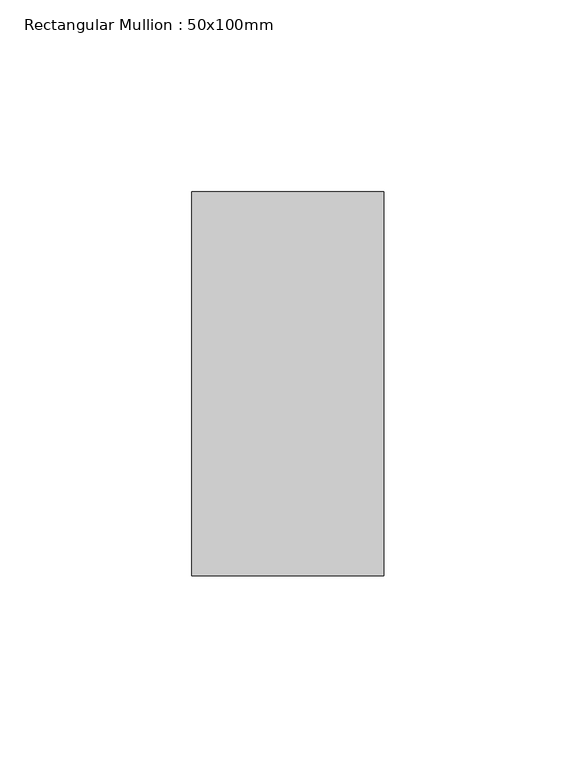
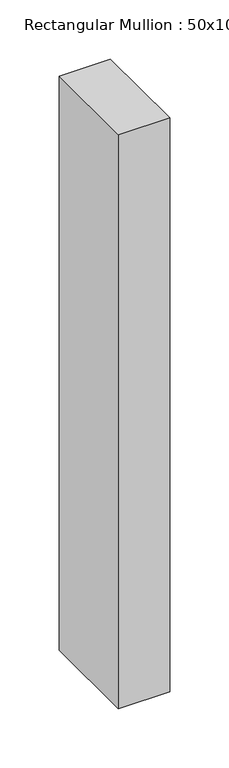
"""IFC4 building model written with IfcOpenShell, lengths in millimetres: member geometry, Rectangular Mullion : 50x100mm."""

from ifc_helpers import new_model, si_unit, frame, origin, place, context, project, spatial, polyline, outline, extrude, source, transform, mapped, element, save


def rectangular_mullion_50x100mm_a45788e4(model_context):
    return source(origin(), model_context, "Body", "SweptSolid", [
        extrude(outline(polyline([(25.0, 50.0), (25.0, -50.0), (-25.0, -50.0), (-25.0, 50.0), (25.0, 50.0)])), frame((0.0, 0.0, -592.3359737), z_axis=(0.0, 0.0, 1.0), x_axis=(1.0, 0.0, 0.0)), (0.0, 0.0, 1.0), 592.3359737),
    ])


if __name__ == "__main__":
    model = new_model("IFC4")
    model_context = context("Model", 3, world=origin())
    ifc_project = project(units=[si_unit("LENGTHUNIT", "METRE", prefix="MILLI")], contexts=[model_context])
    site = spatial("IfcSite", under=ifc_project)
    building = spatial("IfcBuilding", under=site)
    placement = place(None, origin())
    rectangular_mullion_50x100mm_shape = rectangular_mullion_50x100mm_a45788e4(model_context)
    element("IfcMember", 1, ObjectType="Rectangular Mullion : 50x100mm", at=placement, inside=building, context=model_context, shape_type="MappedRepresentation", body=[
        mapped(rectangular_mullion_50x100mm_shape, transform((0.0, 0.0, 0.0), x_axis=(1.0, 0.0, 0.0), y_axis=(0.0, 1.0, 0.0), z_axis=(0.0, 0.0, 1.0))),
    ])
    save(model, "model.ifc")
